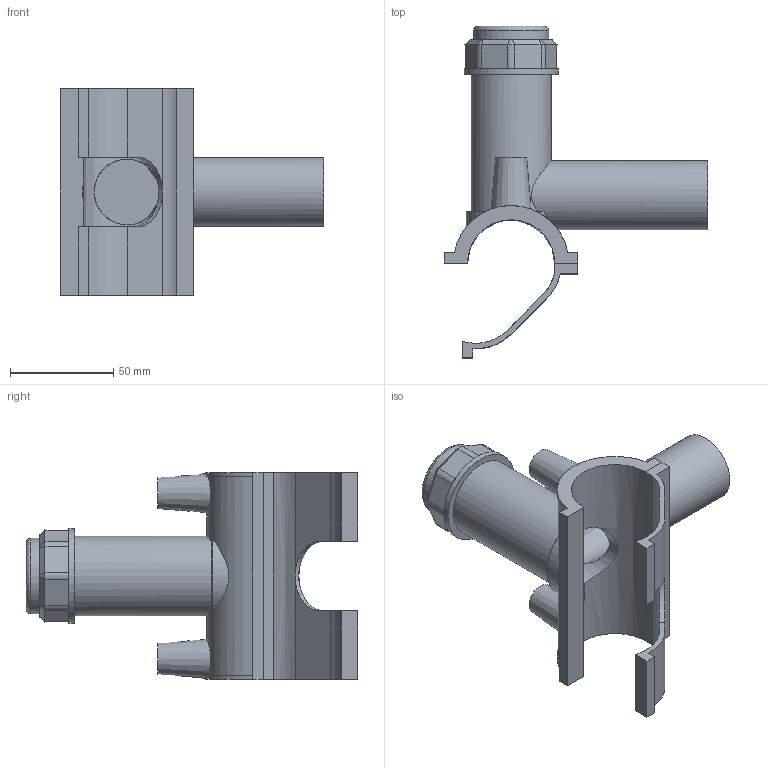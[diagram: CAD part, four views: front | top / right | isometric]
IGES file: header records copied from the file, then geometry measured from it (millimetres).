
Global section: file name: 5963BB03013010.ipt; native system: Autodesk Inventor 2019; preprocessor: unknown; author: KIM; date: 20210830.101334; units: millimetre
Bounding box: 127.25 x 160.41 x 100.08 mm (x, y, z)
Volume: 156604.3 mm3; surface area: 70275.7 mm2
Topology: 2 solids, 2 shells, 111 faces, 283 edges, 185 vertices
Faces by surface type: plane 63, cylinder 25, cone 13, revolution 10
Full cylindrical faces by diameter (mm): 4 x2, 33.3 x1, 36.374 x1, 38.648 x1, 45.468 x1
